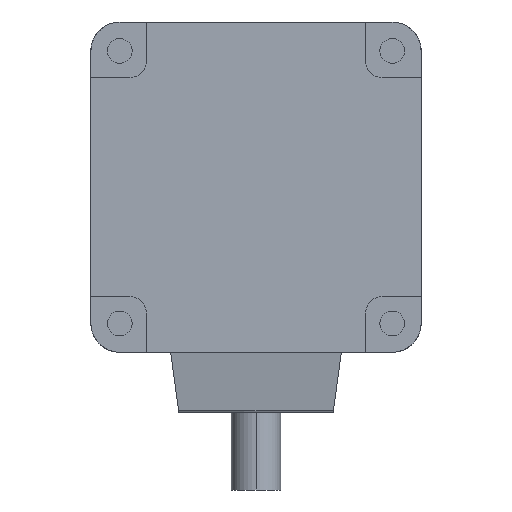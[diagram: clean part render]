
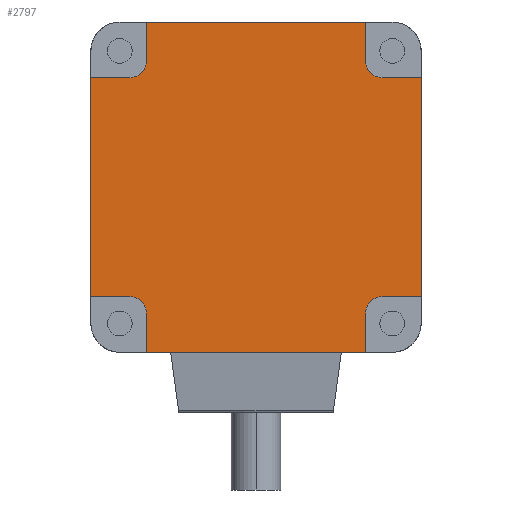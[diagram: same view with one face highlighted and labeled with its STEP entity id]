
A CAD part, left-side view. The second image highlights one B-rep face of the part: STEP entity #2797.
In plain terms, the highlighted planar face has unit normal (-1, 0, 0).
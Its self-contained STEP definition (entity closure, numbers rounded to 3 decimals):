
#2658=CARTESIAN_POINT('POINT233041',(-76.,29.99,-29.9));
#2659=VERTEX_POINT('VERTEX233041',#2658);
#2660=CARTESIAN_POINT('POINT233042',(-76.,22.9,-29.9));
#2661=VERTEX_POINT('VERTEX233042',#2660);
#2662=CARTESIAN_POINT('POS397051',(-76.,11.45,-29.9));
#2663=DIRECTION('DIR576869',(0.,-1.,0.));
#2664=VECTOR('VEC217233',#2663,1.);
#2665=LINE('STRAIGHT217233',#2662,#2664);
#2666=EDGE_CURVE('EDGE360595',#2659,#2661,#2665,.T.);
#2667=ORIENTED_EDGE('COEDGE721341',*,*,#2666,.T.);
#2668=CARTESIAN_POINT('POINT233043',(-76.,19.9,-32.9));
#2669=VERTEX_POINT('VERTEX233043',#2668);
#2670=CARTESIAN_POINT('POS397052',(-76.,22.9,-32.9));
#2671=DIRECTION('DIR576870',(1.,0.,0.));
#2672=DIRECTION('DIR576871',(0.,-1.,0.));
#2673=AXIS2_PLACEMENT_3D('AXIS179819',#2670,#2671,#2672);
#2674=CIRCLE('ELLIPSE73462',#2673,3.);
#2675=EDGE_CURVE('EDGE360596',#2661,#2669,#2674,.T.);
#2676=ORIENTED_EDGE('COEDGE721342',*,*,#2675,.T.);
#2677=CARTESIAN_POINT('POINT233044',(-76.,19.9,-39.99));
#2678=VERTEX_POINT('VERTEX233044',#2677);
#2679=CARTESIAN_POINT('POS397053',(-76.,19.9,-26.5));
#2680=DIRECTION('DIR576872',(0.,0.,-1.))
   ;
#2681=VECTOR('VEC217234',#2680,1.);
#2682=LINE('STRAIGHT217234',#2679,#2681);
#2683=EDGE_CURVE('EDGE360597',#2669,#2678,#2682,.T.);
#2684=ORIENTED_EDGE('COEDGE721343',*,*,#2683,.T.);
#2685=CARTESIAN_POINT('POINT233045',(-76.,-19.9,-39.99));
#2686=VERTEX_POINT('VERTEX233045',#2685);
#2687=CARTESIAN_POINT('POS397054',(-76.,0.,-39.99));
#2688=DIRECTION('DIR576873',(0.,1.,0.));
#2689=VECTOR('VEC217235',#2688,1.);
#2690=LINE('STRAIGHT217235',#2687,#2689);
#2691=EDGE_CURVE('EDGE360598',#2686,#2678,#2690,.T.);
#2692=ORIENTED_EDGE('COEDGE721344',*,*,#2691,.F.);
#2693=CARTESIAN_POINT('POINT233046',(-76.,-19.9,-32.9));
#2694=VERTEX_POINT('VERTEX233046',#2693);
#2695=CARTESIAN_POINT('POS397055',(-76.,-19.9,-21.45));
#2696=DIRECTION('DIR576874',(0.,0.,1.));
#2697=VECTOR('VEC217236',#2696,1.);
#2698=LINE('STRAIGHT217236',#2695,#2697);
#2699=EDGE_CURVE('EDGE360599',#2686,#2694,#2698,.T.);
#2700=ORIENTED_EDGE('COEDGE721345',*,*,#2699,.T.);
#2701=CARTESIAN_POINT('POINT233047',(-76.,-22.9,-29.9));
#2702=VERTEX_POINT('VERTEX233047',#2701);
#2703=CARTESIAN_POINT('POS397056',(-76.,-22.9,-32.9));
#2704=DIRECTION('DIR576875',(1.,0.,0.));
#2705=DIRECTION('DIR576876',(0.,0.,1.));
#2706=AXIS2_PLACEMENT_3D('AXIS179820',#2703,#2704,#2705);
#2707=CIRCLE('ELLIPSE73463',#2706,3.);
#2708=EDGE_CURVE('EDGE360600',#2694,#2702,#2707,.T.);
#2709=ORIENTED_EDGE('COEDGE721346',*,*,#2708,.T.);
#2710=CARTESIAN_POINT('POINT233048',(-76.,-29.99,-29.9));
#2711=VERTEX_POINT('VERTEX233048',#2710);
#2712=CARTESIAN_POINT('POS397057',(-76.,-16.5,-29.9));
#2713=DIRECTION('DIR576877',(0.,-1.,0.));
#2714=VECTOR('VEC217237',#2713,1.);
#2715=LINE('STRAIGHT217237',#2712,#2714);
#2716=EDGE_CURVE('EDGE360601',#2702,#2711,#2715,.T.);
#2717=ORIENTED_EDGE('COEDGE721347',*,*,#2716,.T.);
#2718=CARTESIAN_POINT('POINT233049',(-76.,-29.99,9.9));
#2719=VERTEX_POINT('VERTEX233049',#2718);
#2720=CARTESIAN_POINT('POS397058',(-76.,-29.99,14.7));
#2721=DIRECTION('DIR576878',(0.,0.,-1.));
#2722=VECTOR('VEC217238',#2721,1.);
#2723=LINE('STRAIGHT217238',#2720,#2722);
#2724=EDGE_CURVE('EDGE360602',#2719,#2711,#2723,.T.);
#2725=ORIENTED_EDGE('COEDGE721348',*,*,#2724,.F.);
#2726=CARTESIAN_POINT('POINT233050',(-76.,-22.9,9.9));
#2727=VERTEX_POINT('VERTEX233050',#2726);
#2728=CARTESIAN_POINT('POS397059',(-76.,-11.45,9.9));
#2729=DIRECTION('DIR576879',(0.,1.,0.));
#2730=VECTOR('VEC217239',#2729,1.);
#2731=LINE('STRAIGHT217239',#2728,#2730);
#2732=EDGE_CURVE('EDGE360603',#2719,#2727,#2731,.T.);
#2733=ORIENTED_EDGE('COEDGE721349',*,*,#2732,.T.);
#2734=CARTESIAN_POINT('POINT233051',(-76.,-19.9,12.9));
#2735=VERTEX_POINT('VERTEX233051',#2734);
#2736=CARTESIAN_POINT('POS397060',(-76.,-22.9,12.9));
#2737=DIRECTION('DIR576880',(1.,0.,0.));
#2738=DIRECTION('DIR576881',(0.,1.,0.));
#2739=AXIS2_PLACEMENT_3D('AXIS179821',#2736,#2737,#2738);
#2740=CIRCLE('ELLIPSE73464',#2739,3.);
#2741=EDGE_CURVE('EDGE360604',#2727,#2735,#2740,.T.);
#2742=ORIENTED_EDGE('COEDGE721350',*,*,#2741,.T.);
#2743=CARTESIAN_POINT('POINT233052',(-76.,-19.9,19.99));
#2744=VERTEX_POINT('VERTEX233052',#2743);
#2745=CARTESIAN_POINT('POS397061',(-76.,-19.9,
   6.5));
#2746=DIRECTION('DIR576882',(0.,0.,1.));
#2747=VECTOR('VEC217240',#2746,1.);
#2748=LINE('STRAIGHT217240',#2745,#2747);
#2749=EDGE_CURVE('EDGE360605',#2735,#2744,#2748,.T.);
#2750=ORIENTED_EDGE('COEDGE721351',*,*,#2749,.T.);
#2751=CARTESIAN_POINT('POINT233053',(-76.,19.9,19.99));
#2752=VERTEX_POINT('VERTEX233053',#2751);
#2753=CARTESIAN_POINT('POS397062',(-76.,24.7,19.99));
#2754=DIRECTION('DIR576883',(0.,-1.,0.));
#2755=VECTOR('VEC217241',#2754,1.);
#2756=LINE('STRAIGHT217241',#2753,#2755);
#2757=EDGE_CURVE('EDGE360606',#2752,#2744,#2756,.T.);
#2758=ORIENTED_EDGE('COEDGE721352',*,*,#2757,.F.);
#2759=CARTESIAN_POINT('POINT233054',(-76.,19.9,12.9));
#2760=VERTEX_POINT('VERTEX233054',#2759);
#2761=CARTESIAN_POINT('POS397063',(-76.,19.9,1.45));
#2762=DIRECTION('DIR576884',(0.,0.,-1.));
#2763=VECTOR('VEC217242',#2762,1.);
#2764=LINE('STRAIGHT217242',#2761,#2763);
#2765=EDGE_CURVE('EDGE360607',#2752,#2760,#2764,.T.);
#2766=ORIENTED_EDGE('COEDGE721353',*,*,#2765,.T.);
#2767=CARTESIAN_POINT('POINT233055',(-76.,22.9,9.9));
#2768=VERTEX_POINT('VERTEX233055',#2767);
#2769=CARTESIAN_POINT('POS397064',(-76.,22.9,12.9));
#2770=DIRECTION('DIR576885',(1.,0.,0.));
#2771=DIRECTION('DIR576886',(0.,0.,-1.));
#2772=AXIS2_PLACEMENT_3D('AXIS179822',#2769,#2770,#2771);
#2773=CIRCLE('ELLIPSE73465',#2772,3.);
#2774=EDGE_CURVE('EDGE360608',#2760,#2768,#2773,.T.);
#2775=ORIENTED_EDGE('COEDGE721354',*,*,#2774,.T.);
#2776=CARTESIAN_POINT('POINT233056',(-76.,29.99,9.9));
#2777=VERTEX_POINT('VERTEX233056',#2776);
#2778=CARTESIAN_POINT('POS397065',(-76.,16.5,9.9));
#2779=DIRECTION('DIR576887',(0.,1.,0.));
#2780=VECTOR('VEC217243',#2779,1.);
#2781=LINE('STRAIGHT217243',#2778,#2780);
#2782=EDGE_CURVE('EDGE360609',#2768,#2777,#2781,.T.);
#2783=ORIENTED_EDGE('COEDGE721355',*,*,#2782,.T.);
#2784=CARTESIAN_POINT('POS397066',(-76.,29.99,-34.7));
#2785=DIRECTION('DIR576888',(0.,0.,1.));
#2786=VECTOR('VEC217244',#2785,1.);
#2787=LINE('STRAIGHT217244',#2784,#2786);
#2788=EDGE_CURVE('EDGE360610',#2659,#2777,#2787,.T.);
#2789=ORIENTED_EDGE('COEDGE721356',*,*,#2788,.F.);
#2790=EDGE_LOOP('NONE',(#2667,#2676,#2684,#2692,#2700,#2709,#2717,#2725,
   #2733,#2742,#2750,#2758,#2766,#2775,#2783,#2789));
#2791=FACE_BOUND('LOOP1',#2790,.T.);
#2792=CARTESIAN_POINT('POS397067',(-76.,0.,
   -10.));
#2793=DIRECTION('DIR576889',(1.,0.,0.));
#2794=DIRECTION('DIR576890',(0.,1.,0.));
#2795=AXIS2_PLACEMENT_3D('AXIS179823',#2792,#2793,#2794);
#2796=PLANE('PLANE74618',#2795);
#2797=ADVANCED_FACE('FACE139914',(#2791),#2796,.F.);
